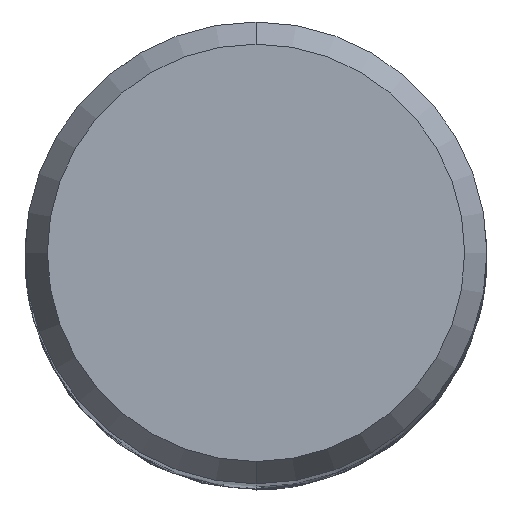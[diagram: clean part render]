
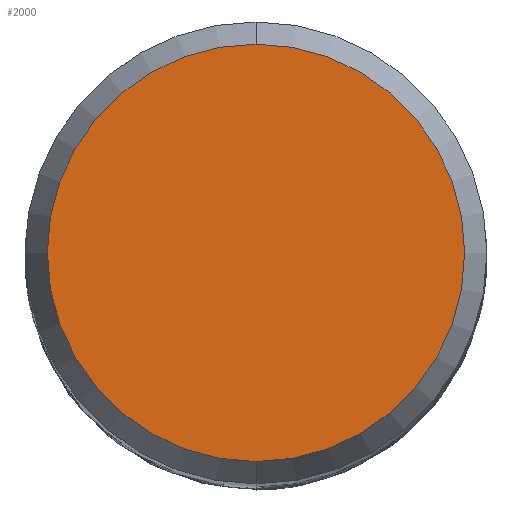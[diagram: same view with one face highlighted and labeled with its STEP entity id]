
A CAD part, top view. The second image highlights one B-rep face of the part: STEP entity #2000.
In plain terms, the highlighted planar face has unit normal (0, 0, 1).
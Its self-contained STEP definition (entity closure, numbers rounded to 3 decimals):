
#802=VERTEX_POINT('',#2251);
#1082=EDGE_CURVE('',#802,#2132,#2560,.T.);
#1844=EDGE_CURVE('',#2132,#802,#3390,.T.);
#2000=ADVANCED_FACE('',(#3559),#3560,.T.);
#2132=VERTEX_POINT('',#3700);
#2251=CARTESIAN_POINT('',(0.0,5.423,0.0));
#2560=CIRCLE('',#7951,5.423);
#3390=CIRCLE('',#19589,5.423);
#3559=FACE_OUTER_BOUND('',#21502,.T.);
#3560=PLANE('',#21503);
#3700=CARTESIAN_POINT('',(0.,-5.423,0.0));
#7951=AXIS2_PLACEMENT_3D('',#23500,#23501,#23502);
#19589=AXIS2_PLACEMENT_3D('',#24300,#24301,#24302);
#21502=EDGE_LOOP('',(#24452,#24453));
#21503=AXIS2_PLACEMENT_3D('',#24454,#24455,#24456);
#23500=CARTESIAN_POINT('',(0.0,0.0,0.0));
#23501=DIRECTION('',(0.0,0.0,-1.0));
#23502=DIRECTION('',(0.0,1.0,0.0));
#24300=CARTESIAN_POINT('',(0.0,0.0,0.0));
#24301=DIRECTION('',(0.0,0.0,-1.0));
#24302=DIRECTION('',(0.0,1.0,0.0));
#24452=ORIENTED_EDGE('',*,*,#1082,.F.);
#24453=ORIENTED_EDGE('',*,*,#1844,.F.);
#24454=CARTESIAN_POINT('',(0.0,2.711,0.0));
#24455=DIRECTION('',(-0.0,0.0,1.0));
#24456=DIRECTION('',(0.0,-1.0,0.0));
